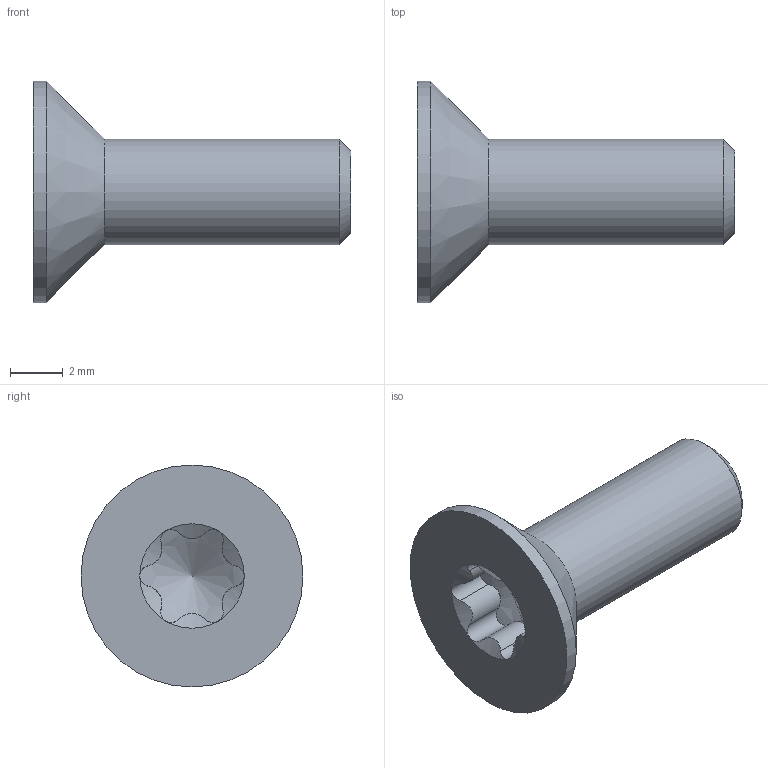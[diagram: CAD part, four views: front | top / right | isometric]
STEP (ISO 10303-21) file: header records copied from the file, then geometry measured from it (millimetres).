
FILE_DESCRIPTION(/* description */ ('BN 3803-Hexalobular (6 Lobe) socket countersunk flat head screws, fully threaded (ISO 14581), stainless steel A2'),/* implementation_level */ '2;1');
FILE_NAME(/* name */ 'C:\ADSK_DMS_WS\Designs\Vorschläge\Loc Schalen\Schraubenlängebestimmung\Schrauben\M4x12 Senkkopfschraube 90°mit TX20 A2.stp',/* time_stamp */ '2021-10-05T14:02:48+02:00',/* author */ ('gm'),/* organization */ ('BOSSARD'),/* preprocessor_version */ 'ST-DEVELOPER v16.5',/* originating_system */ 'Autodesk Inventor 2017',/* authorisation */ '');
FILE_SCHEMA (('AUTOMOTIVE_DESIGN { 1 0 10303 214 3 1 1 }'));
Length unit declared in the file: millimetre
Products named in the file (1): BN 3803  M4x12_INOX A2
Bounding box: 12 x 8.4 x 8.4 mm (x, y, z)
Volume: 194.4 mm3; surface area: 277.2 mm2
Topology: 1 solids, 1 shells, 31 faces, 83 edges, 54 vertices
Faces by surface type: cylinder 14, cone 9, plane 8
Full cylindrical faces by diameter (mm): 4 x1, 8.4 x1
Entity records: 1204 total; most frequent: CARTESIAN_POINT 492, ORIENTED_EDGE 154, DIRECTION 122, EDGE_CURVE 77, AXIS2_PLACEMENT_3D 55, VERTEX_POINT 53, B_SPLINE_CURVE_WITH_KNOTS 42, EDGE_LOOP 36
